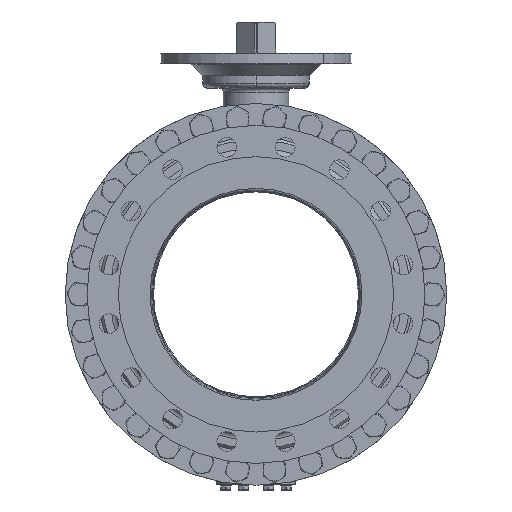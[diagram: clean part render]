
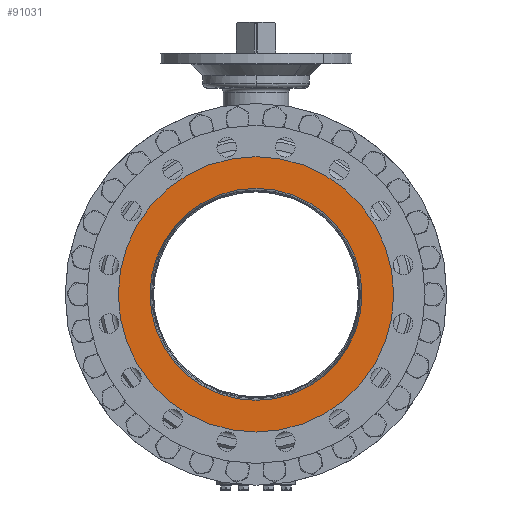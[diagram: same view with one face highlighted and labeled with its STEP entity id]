
A CAD part, left-side view. The second image highlights one B-rep face of the part: STEP entity #91031.
In plain terms, the highlighted planar face has unit normal (-1, 0, 0).
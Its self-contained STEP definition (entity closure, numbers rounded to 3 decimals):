
#14272=CARTESIAN_POINT('',(-381.,0.,0.));
#14273=DIRECTION('',(1.,0.,0.));
#14274=DIRECTION('',(0.,0.,1.));
#14275=AXIS2_PLACEMENT_3D('',#14272,#14273,#14274);
#14277=CARTESIAN_POINT('',(-381.,0.,0.));
#14278=DIRECTION('',(1.,0.,0.));
#14279=DIRECTION('',(0.,0.,-1.));
#14280=AXIS2_PLACEMENT_3D('',#14277,#14278,#14279);
#14282=CARTESIAN_POINT('',(-381.,0.,0.));
#14283=DIRECTION('',(1.,0.,0.));
#14284=DIRECTION('',(0.,0.,1.));
#14285=AXIS2_PLACEMENT_3D('',#14282,#14283,#14284);
#14287=CARTESIAN_POINT('',(-381.,0.,0.));
#14288=DIRECTION('',(-1.,0.,0.));
#14289=DIRECTION('',(0.,0.,1.));
#14290=AXIS2_PLACEMENT_3D('',#14287,#14288,#14289);
#63122=CARTESIAN_POINT('',(-381.,0.,194.4));
#63124=VERTEX_POINT('',#63122);
#63126=CARTESIAN_POINT('',(-381.,0.,-194.4));
#63128=VERTEX_POINT('',#63126);
#63157=CARTESIAN_POINT('',(-381.,0.,252.5));
#63158=CARTESIAN_POINT('',(-381.,0.,-252.5));
#63159=VERTEX_POINT('',#63157);
#63160=VERTEX_POINT('',#63158);
#91016=CARTESIAN_POINT('',(-381.,0.,0.));
#91017=DIRECTION('',(-1.,0.,0.));
#91018=DIRECTION('',(0.,0.,-1.));
#91019=AXIS2_PLACEMENT_3D('',#91016,#91017,#91018);
#91020=PLANE('',#91019);
#91022=ORIENTED_EDGE('',*,*,#91021,.T.);
#91024=ORIENTED_EDGE('',*,*,#91023,.T.);
#91025=EDGE_LOOP('',(#91022,#91024));
#91026=FACE_OUTER_BOUND('',#91025,.F.);
#91027=ORIENTED_EDGE('',*,*,#90995,.F.);
#91028=ORIENTED_EDGE('',*,*,#91011,.T.);
#91029=EDGE_LOOP('',(#91027,#91028));
#91030=FACE_BOUND('',#91029,.F.);
#91031=ADVANCED_FACE('',(#91026,#91030),#91020,.T.);
#14276=CIRCLE('',#14275,252.5);
#14281=CIRCLE('',#14280,252.5);
#14286=CIRCLE('',#14285,194.4);
#14291=CIRCLE('',#14290,194.4);
#90995=EDGE_CURVE('',#63124,#63128,#14286,.T.);
#91011=EDGE_CURVE('',#63124,#63128,#14291,.T.);
#91021=EDGE_CURVE('',#63159,#63160,#14276,.T.);
#91023=EDGE_CURVE('',#63160,#63159,#14281,.T.);
